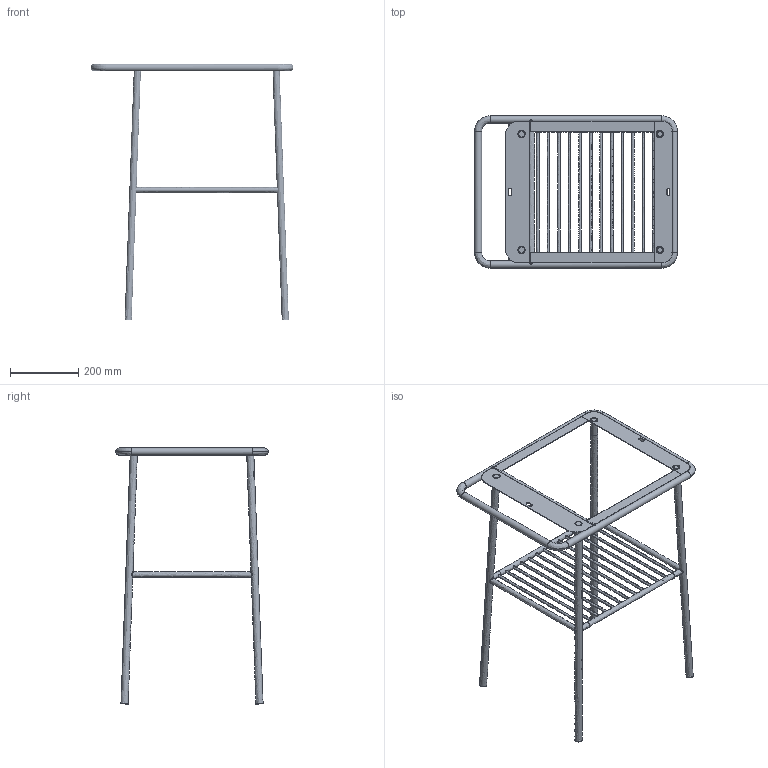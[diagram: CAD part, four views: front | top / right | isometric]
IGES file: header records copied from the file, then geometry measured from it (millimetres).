
Start section: C
Global section: file name: consolle piccola.igs; native system:  By UGS Corp.; preprocessor: XPlus GENERIC/IGES 3.0; author: Author; organization: Title; date: 20140711.090556; units: millimetre
Bounding box: 595 x 446 x 750.55 mm (x, y, z)
Surface area: 1035111.4 mm2 (no closed solid volume)
Topology: 0 solids, 0 shells, 199 faces, 1637 edges, 1633 vertices
Faces by surface type: bspline 199
